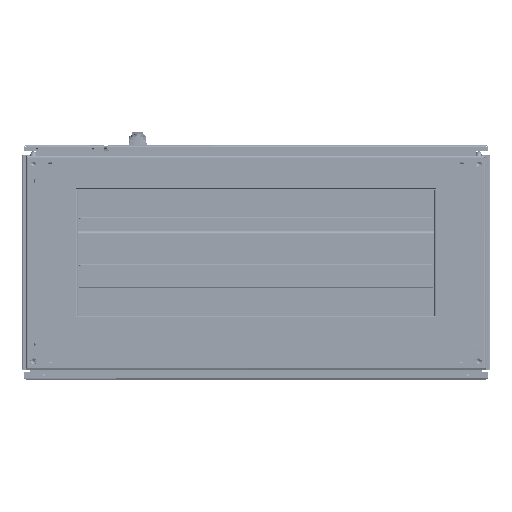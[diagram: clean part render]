
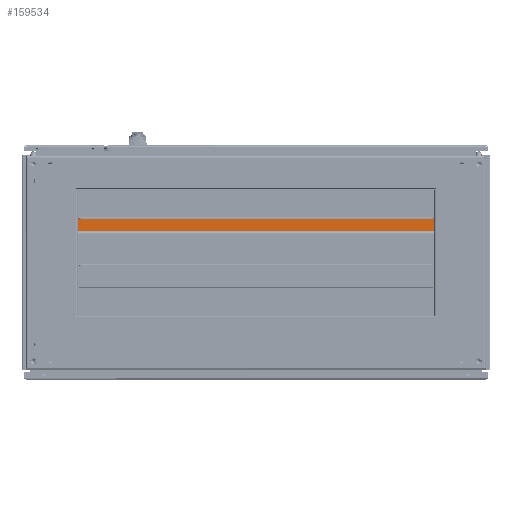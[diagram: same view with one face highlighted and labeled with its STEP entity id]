
A CAD part, front view. The second image highlights one B-rep face of the part: STEP entity #159534.
In plain terms, the highlighted planar face has unit normal (0, -1, 0).
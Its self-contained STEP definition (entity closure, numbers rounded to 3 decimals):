
#1839 = ORIENTED_EDGE ( 'NONE', *, *, #148209, .F. ) ;
#9639 = CARTESIAN_POINT ( 'NONE',  ( -75.681, 2.3, 0. ) ) ;
#10075 = AXIS2_PLACEMENT_3D ( 'NONE', #150210, #346097, #178362 ) ;
#12733 = EDGE_CURVE ( 'NONE', #240342, #261378, #67487, .T. ) ;
#20613 = ORIENTED_EDGE ( 'NONE', *, *, #12733, .T. ) ;
#22727 = VERTEX_POINT ( 'NONE', #328336 ) ;
#25192 = CARTESIAN_POINT ( 'NONE',  ( -75.681, 2.3, -815. ) ) ;
#26323 = CARTESIAN_POINT ( 'NONE',  ( -75.681, 2.3, -832. ) ) ;
#30623 = AXIS2_PLACEMENT_3D ( 'NONE', #101256, #297103, #129389 ) ;
#37108 = VECTOR ( 'NONE', #271972, 1000. ) ;
#39200 = EDGE_CURVE ( 'NONE', #261378, #50263, #209727, .T. ) ;
#45748 = LINE ( 'NONE', #263216, #334795 ) ;
#48694 = AXIS2_PLACEMENT_3D ( 'NONE', #290126, #122380, #318276 ) ;
#49205 = DIRECTION ( 'NONE',  ( 0., 1., 0. ) ) ;
#50263 = VERTEX_POINT ( 'NONE', #235938 ) ;
#53180 = ORIENTED_EDGE ( 'NONE', *, *, #235074, .T. ) ;
#58250 = DIRECTION ( 'NONE',  ( 0., -1., 0. ) ) ;
#60975 = VECTOR ( 'NONE', #115962, 1000. ) ;
#62340 = CIRCLE ( 'NONE', #355412, 5. ) ;
#64272 = EDGE_CURVE ( 'NONE', #239088, #292715, #233214, .T. ) ;
#67487 = CIRCLE ( 'NONE', #351250, 5. ) ;
#67901 = VERTEX_POINT ( 'NONE', #106520 ) ;
#71646 = DIRECTION ( 'NONE',  ( 0., -1., 0. ) ) ;
#77456 = ORIENTED_EDGE ( 'NONE', *, *, #279532, .T. ) ;
#86304 = CIRCLE ( 'NONE', #10075, 5. ) ;
#101256 = CARTESIAN_POINT ( 'NONE',  ( -110.681, 2.3, -12. ) ) ;
#101950 = CARTESIAN_POINT ( 'NONE',  ( -110.681, 2.3, -17. ) ) ;
#106377 = VERTEX_POINT ( 'NONE', #245557 ) ;
#106520 = CARTESIAN_POINT ( 'NONE',  ( -105.681, 2.3, -820. ) ) ;
#111451 = LINE ( 'NONE', #214461, #37108 ) ;
#115962 = DIRECTION ( 'NONE',  ( 0., 0., -1. ) ) ;
#120534 = VERTEX_POINT ( 'NONE', #202495 ) ;
#122380 = DIRECTION ( 'NONE',  ( 0., -1., 0. ) ) ;
#125571 = LINE ( 'NONE', #9639, #274527 ) ;
#126680 = CIRCLE ( 'NONE', #30623, 5. ) ;
#129389 = DIRECTION ( 'NONE',  ( -1., 0., 0. ) ) ;
#130043 = ORIENTED_EDGE ( 'NONE', *, *, #64272, .T. ) ;
#131144 = PLANE ( 'NONE',  #190059 ) ;
#131869 = DIRECTION ( 'NONE',  ( 0., 1., 0. ) ) ;
#144067 = CARTESIAN_POINT ( 'NONE',  ( -105.681, 2.3, -832. ) ) ;
#145394 = VERTEX_POINT ( 'NONE', #334767 ) ;
#148209 = EDGE_CURVE ( 'NONE', #239088, #120534, #274900, .T. ) ;
#148574 = EDGE_LOOP ( 'NONE', ( #336003, #250129, #156143, #210247, #204898, #77456, #1839, #130043, #53180, #20613, #322655, #304473, #150398, #217194 ) ) ;
#150210 = CARTESIAN_POINT ( 'NONE',  ( -130.681, 2.3, -810. ) ) ;
#150398 = ORIENTED_EDGE ( 'NONE', *, *, #167001, .T. ) ;
#155210 = DIRECTION ( 'NONE',  ( -1., 0., 0. ) ) ;
#155444 = CARTESIAN_POINT ( 'NONE',  ( -75.681, 2.3, -832. ) ) ;
#156143 = ORIENTED_EDGE ( 'NONE', *, *, #171307, .F. ) ;
#159534 = ADVANCED_FACE ( 'NONE', ( #177917 ), #131144, .F. ) ;
#164652 = DIRECTION ( 'NONE',  ( 0., 0., 1. ) ) ;
#167001 = EDGE_CURVE ( 'NONE', #274385, #22727, #111451, .T. ) ;
#171307 = EDGE_CURVE ( 'NONE', #265664, #106377, #257595, .T. ) ;
#174336 = VECTOR ( 'NONE', #277212, 1000. ) ;
#177917 = FACE_OUTER_BOUND ( 'NONE', #148574, .T. ) ;
#178362 = DIRECTION ( 'NONE',  ( -1., 0., 0. ) ) ;
#186836 = CIRCLE ( 'NONE', #48694, 5. ) ;
#190059 = AXIS2_PLACEMENT_3D ( 'NONE', #216768, #49205, #244903 ) ;
#200410 = CARTESIAN_POINT ( 'NONE',  ( -75.681, 2.3, 0. ) ) ;
#202495 = CARTESIAN_POINT ( 'NONE',  ( -100.681, 2.3, -832. ) ) ;
#204898 = ORIENTED_EDGE ( 'NONE', *, *, #246415, .F. ) ;
#205358 = DIRECTION ( 'NONE',  ( -1., 0., 0. ) ) ;
#208125 = EDGE_CURVE ( 'NONE', #50263, #274385, #126680, .T. ) ;
#209727 = LINE ( 'NONE', #144067, #60975 ) ;
#210247 = ORIENTED_EDGE ( 'NONE', *, *, #291999, .T. ) ;
#214461 = CARTESIAN_POINT ( 'NONE',  ( -75.681, 2.3, -17. ) ) ;
#216768 = CARTESIAN_POINT ( 'NONE',  ( -75.681, 2.3, -832. ) ) ;
#217194 = ORIENTED_EDGE ( 'NONE', *, *, #247978, .T. ) ;
#224363 = VECTOR ( 'NONE', #295029, 1000. ) ;
#224509 = VERTEX_POINT ( 'NONE', #301850 ) ;
#225778 = CARTESIAN_POINT ( 'NONE',  ( -130.681, 2.3, -22. ) ) ;
#233214 = LINE ( 'NONE', #155444, #224363 ) ;
#235074 = EDGE_CURVE ( 'NONE', #292715, #240342, #125571, .T. ) ;
#235938 = CARTESIAN_POINT ( 'NONE',  ( -105.681, 2.3, -12. ) ) ;
#239088 = VERTEX_POINT ( 'NONE', #26323 ) ;
#239248 = CARTESIAN_POINT ( 'NONE',  ( -100.681, 2.3, -5. ) ) ;
#239680 = CARTESIAN_POINT ( 'NONE',  ( -75.681, 2.3, -832. ) ) ;
#240342 = VERTEX_POINT ( 'NONE', #289515 ) ;
#244903 = DIRECTION ( 'NONE',  ( -1., 0., 0. ) ) ;
#245557 = CARTESIAN_POINT ( 'NONE',  ( -130.681, 2.3, -815. ) ) ;
#246415 = EDGE_CURVE ( 'NONE', #224509, #67901, #45748, .T. ) ;
#247978 = EDGE_CURVE ( 'NONE', #22727, #355535, #62340, .T. ) ;
#250129 = ORIENTED_EDGE ( 'NONE', *, *, #353788, .T. ) ;
#250313 = EDGE_CURVE ( 'NONE', #145394, #355535, #275444, .T. ) ;
#252847 = CIRCLE ( 'NONE', #356294, 5. ) ;
#253971 = DIRECTION ( 'NONE',  ( -1., 0., 0. ) ) ;
#257595 = LINE ( 'NONE', #25192, #174336 ) ;
#261378 = VERTEX_POINT ( 'NONE', #269099 ) ;
#263216 = CARTESIAN_POINT ( 'NONE',  ( -105.681, 2.3, -832. ) ) ;
#265664 = VERTEX_POINT ( 'NONE', #282792 ) ;
#266087 = VECTOR ( 'NONE', #155210, 1000. ) ;
#266631 = VECTOR ( 'NONE', #164652, 1000. ) ;
#267442 = DIRECTION ( 'NONE',  ( -1., 0., 0. ) ) ;
#269099 = CARTESIAN_POINT ( 'NONE',  ( -105.681, 2.3, -5. ) ) ;
#271972 = DIRECTION ( 'NONE',  ( -1., 0., 0. ) ) ;
#274385 = VERTEX_POINT ( 'NONE', #101950 ) ;
#274527 = VECTOR ( 'NONE', #205358, 1000. ) ;
#274900 = LINE ( 'NONE', #239680, #266087 ) ;
#275444 = LINE ( 'NONE', #360609, #266631 ) ;
#277212 = DIRECTION ( 'NONE',  ( -1., 0., 0. ) ) ;
#279532 = EDGE_CURVE ( 'NONE', #224509, #120534, #186836, .T. ) ;
#282792 = CARTESIAN_POINT ( 'NONE',  ( -110.681, 2.3, -815. ) ) ;
#289515 = CARTESIAN_POINT ( 'NONE',  ( -100.681, 2.3, 0. ) ) ;
#290126 = CARTESIAN_POINT ( 'NONE',  ( -100.681, 2.3, -827. ) ) ;
#291999 = EDGE_CURVE ( 'NONE', #265664, #67901, #252847, .T. ) ;
#292715 = VERTEX_POINT ( 'NONE', #200410 ) ;
#293238 = CARTESIAN_POINT ( 'NONE',  ( -135.681, 2.3, -22. ) ) ;
#295029 = DIRECTION ( 'NONE',  ( 0., 0., 1. ) ) ;
#297103 = DIRECTION ( 'NONE',  ( 0., 1., 0. ) ) ;
#299570 = CARTESIAN_POINT ( 'NONE',  ( -110.681, 2.3, -820. ) ) ;
#301850 = CARTESIAN_POINT ( 'NONE',  ( -105.681, 2.3, -827. ) ) ;
#304473 = ORIENTED_EDGE ( 'NONE', *, *, #208125, .T. ) ;
#318276 = DIRECTION ( 'NONE',  ( -1., 0., 0. ) ) ;
#318310 = DIRECTION ( 'NONE',  ( 0., 0., 1. ) ) ;
#322655 = ORIENTED_EDGE ( 'NONE', *, *, #39200, .T. ) ;
#327720 = DIRECTION ( 'NONE',  ( -1., 0., 0. ) ) ;
#328336 = CARTESIAN_POINT ( 'NONE',  ( -130.681, 2.3, -17. ) ) ;
#334767 = CARTESIAN_POINT ( 'NONE',  ( -135.681, 2.3, -810. ) ) ;
#334795 = VECTOR ( 'NONE', #318310, 1000. ) ;
#336003 = ORIENTED_EDGE ( 'NONE', *, *, #250313, .F. ) ;
#346097 = DIRECTION ( 'NONE',  ( 0., -1., 0. ) ) ;
#351250 = AXIS2_PLACEMENT_3D ( 'NONE', #239248, #71646, #267442 ) ;
#353788 = EDGE_CURVE ( 'NONE', #145394, #106377, #86304, .T. ) ;
#355412 = AXIS2_PLACEMENT_3D ( 'NONE', #225778, #58250, #253971 ) ;
#355535 = VERTEX_POINT ( 'NONE', #293238 ) ;
#356294 = AXIS2_PLACEMENT_3D ( 'NONE', #299570, #131869, #327720 ) ;
#360609 = CARTESIAN_POINT ( 'NONE',  ( -135.681, 2.3, -832. ) ) ;
